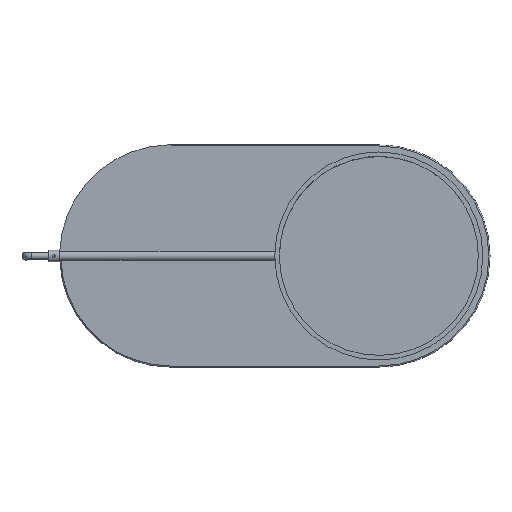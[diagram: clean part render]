
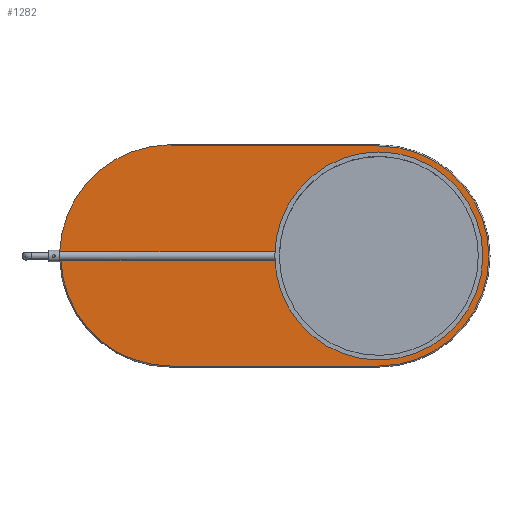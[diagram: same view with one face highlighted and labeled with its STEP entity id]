
A CAD part, top view. The second image highlights one B-rep face of the part: STEP entity #1282.
In plain terms, the highlighted planar face has unit normal (0, 0, 1).
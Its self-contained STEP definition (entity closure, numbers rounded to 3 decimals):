
#403=CARTESIAN_POINT('',(0.0,-193.0,4.0));
#404=VERTEX_POINT('',#403);
#412=CARTESIAN_POINT('',(-364.999,-193.,4.0));
#413=VERTEX_POINT('',#412);
#414=CARTESIAN_POINT('',(0.0,-193.0,4.0));
#415=DIRECTION('',(-1.0,0.0,0.0));
#416=VECTOR('',#415,364.999);
#417=LINE('',#414,#416);
#418=EDGE_CURVE('',#404,#413,#417,.T.);
#444=CARTESIAN_POINT('',(0.,193.0,4.0));
#445=VERTEX_POINT('',#444);
#453=CARTESIAN_POINT('',(0.0,0.0,4.0));
#454=DIRECTION('',(0.0,0.0,-1.0));
#455=DIRECTION('',(1.0,0.0,0.0));
#456=AXIS2_PLACEMENT_3D('',#453,#454,#455);
#457=CIRCLE('',#456,193.0);
#458=EDGE_CURVE('',#445,#404,#457,.T.);
#470=CARTESIAN_POINT('',(-557.747,-7.215,4.0));
#471=VERTEX_POINT('',#470);
#472=CARTESIAN_POINT('',(-364.876,0.005,4.0));
#473=DIRECTION('',(0.0,0.0,-1.));
#474=DIRECTION('',(-0.694,-0.72,0.0));
#475=AXIS2_PLACEMENT_3D('',#472,#473,#474);
#476=CIRCLE('',#475,193.005);
#477=EDGE_CURVE('',#413,#471,#476,.T.);
#504=CARTESIAN_POINT('',(-336.946,193.0,4.0));
#505=VERTEX_POINT('',#504);
#539=CARTESIAN_POINT('',(-336.946,193.0,4.0));
#540=DIRECTION('',(1.0,0.0,0.0));
#541=VECTOR('',#540,336.946);
#542=LINE('',#539,#541);
#543=EDGE_CURVE('',#505,#445,#542,.T.);
#1204=CARTESIAN_POINT('',(-176.352,-7.215,4.0));
#1205=VERTEX_POINT('',#1204);
#1206=CARTESIAN_POINT('',(-176.352,-7.215,4.0));
#1207=DIRECTION('',(-1.0,0.0,0.0));
#1208=VECTOR('',#1207,381.394);
#1209=LINE('',#1206,#1208);
#1210=EDGE_CURVE('',#1205,#471,#1209,.T.);
#1212=CARTESIAN_POINT('',(-176.352,7.215,4.0));
#1213=VERTEX_POINT('',#1212);
#1231=CARTESIAN_POINT('',(-559.748,7.215,4.0));
#1232=VERTEX_POINT('',#1231);
#1233=CARTESIAN_POINT('',(-559.748,7.215,4.0));
#1234=DIRECTION('',(1.0,0.0,0.0));
#1235=VECTOR('',#1234,383.396);
#1236=LINE('',#1233,#1235);
#1237=EDGE_CURVE('',#1232,#1213,#1236,.T.);
#1255=CARTESIAN_POINT('',(-182.413,-0.02,4.0));
#1256=DIRECTION('',(0.0,0.0,1.0));
#1257=DIRECTION('',(1.0,0.0,0.0));
#1258=AXIS2_PLACEMENT_3D('',#1255,#1256,#1257);
#1259=PLANE('',#1258);
#1260=CARTESIAN_POINT('',(-364.876,0.005,4.0));
#1261=DIRECTION('',(0.0,0.0,-1.));
#1262=DIRECTION('',(-0.01,-1.,0.0));
#1263=AXIS2_PLACEMENT_3D('',#1260,#1261,#1262);
#1264=CIRCLE('',#1263,195.005);
#1265=EDGE_CURVE('',#1232,#505,#1264,.T.);
#1266=ORIENTED_EDGE('',*,*,#1265,.F.);
#1267=ORIENTED_EDGE('',*,*,#1237,.T.);
#1268=CARTESIAN_POINT('',(0.0,0.0,4.0));
#1269=DIRECTION('',(0.0,0.0,1.0));
#1270=DIRECTION('',(-1.0,0.0,0.0));
#1271=AXIS2_PLACEMENT_3D('',#1268,#1269,#1270);
#1272=CIRCLE('',#1271,176.5);
#1273=EDGE_CURVE('',#1205,#1213,#1272,.T.);
#1274=ORIENTED_EDGE('',*,*,#1273,.F.);
#1275=ORIENTED_EDGE('',*,*,#1210,.T.);
#1276=ORIENTED_EDGE('',*,*,#477,.F.);
#1277=ORIENTED_EDGE('',*,*,#418,.F.);
#1278=ORIENTED_EDGE('',*,*,#458,.F.);
#1279=ORIENTED_EDGE('',*,*,#543,.F.);
#1280=EDGE_LOOP('',(#1266,#1267,#1274,#1275,#1276,#1277,#1278,#1279));
#1281=FACE_OUTER_BOUND('',#1280,.T.);
#1282=ADVANCED_FACE('',(#1281),#1259,.T.);
